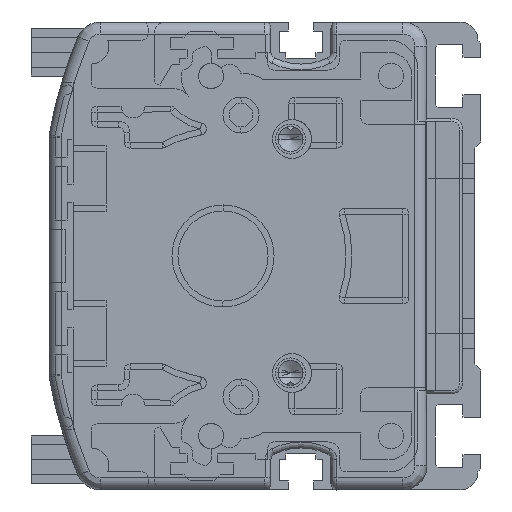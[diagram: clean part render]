
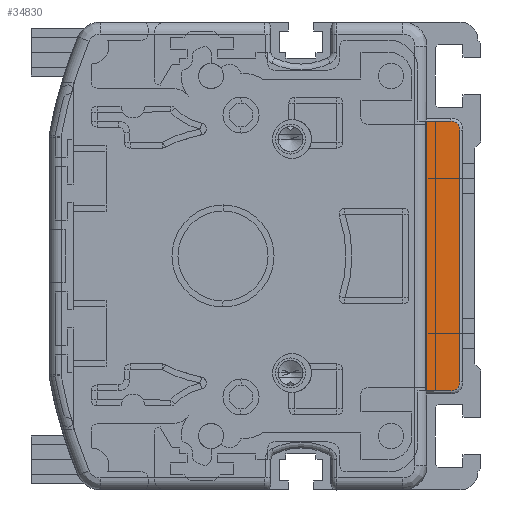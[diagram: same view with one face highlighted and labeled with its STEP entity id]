
A CAD part, left-side view. The second image highlights one B-rep face of the part: STEP entity #34830.
In plain terms, the highlighted planar face has unit normal (-1, 0, 0).
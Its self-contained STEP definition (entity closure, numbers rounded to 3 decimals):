
#29385=DIRECTION('',(0.,0.,-1.));
#29386=VECTOR('',#29385,45.);
#29387=CARTESIAN_POINT('',(-2.,10.268,22.5));
#29388=LINE('',#29387,#29386);
#29420=CARTESIAN_POINT('',(-2.,6.,21.));
#29421=DIRECTION('',(1.,0.,0.));
#29422=DIRECTION('',(0.,0.,1.));
#29423=AXIS2_PLACEMENT_3D('',#29420,#29421,#29422);
#29425=CARTESIAN_POINT('',(-2.,6.,-21.));
#29426=DIRECTION('',(1.,0.,0.));
#29427=DIRECTION('',(0.,-1.,0.));
#29428=AXIS2_PLACEMENT_3D('',#29425,#29426,#29427);
#29434=DIRECTION('',(0.,-1.,0.));
#29435=VECTOR('',#29434,4.268);
#29436=CARTESIAN_POINT('',(-2.,10.268,-22.5));
#29437=LINE('',#29436,#29435);
#29968=DIRECTION('',(0.,0.,1.));
#29969=VECTOR('',#29968,42.);
#29970=CARTESIAN_POINT('',(-2.,4.5,-21.));
#29971=LINE('',#29970,#29969);
#29991=DIRECTION('',(0.,1.,0.));
#29992=VECTOR('',#29991,4.268);
#29993=CARTESIAN_POINT('',(-2.,6.,22.5));
#29994=LINE('',#29993,#29992);
#33277=CARTESIAN_POINT('',(-2.,10.268,22.5));
#33278=CARTESIAN_POINT('',(-2.,10.268,-22.5));
#33279=VERTEX_POINT('',#33277);
#33280=VERTEX_POINT('',#33278);
#33290=CARTESIAN_POINT('',(-2.,6.,-22.5));
#33291=VERTEX_POINT('',#33290);
#33292=CARTESIAN_POINT('',(-2.,4.5,-21.));
#33293=VERTEX_POINT('',#33292);
#33294=CARTESIAN_POINT('',(-2.,4.5,21.));
#33295=VERTEX_POINT('',#33294);
#33296=CARTESIAN_POINT('',(-2.,6.,
22.5));
#33297=VERTEX_POINT('',#33296);
#34812=CARTESIAN_POINT('',(-2.,7.384,0.));
#34813=DIRECTION('',(1.,0.,0.));
#34814=DIRECTION('',(0.,0.,-1.));
#34815=AXIS2_PLACEMENT_3D('',#34812,#34813,#34814);
#34816=PLANE('',#34815);
#34818=ORIENTED_EDGE('',*,*,#34817,.F.);
#34819=ORIENTED_EDGE('',*,*,#34791,.F.);
#34821=ORIENTED_EDGE('',*,*,#34820,.F.);
#34823=ORIENTED_EDGE('',*,*,#34822,.T.);
#34825=ORIENTED_EDGE('',*,*,#34824,.F.);
#34827=ORIENTED_EDGE('',*,*,#34826,.T.);
#34828=EDGE_LOOP('',(#34818,#34819,#34821,#34823,#34825,#34827));
#34829=FACE_OUTER_BOUND('',#34828,.F.);
#34830=ADVANCED_FACE('',(#34829),#34816,.F.);
#29424=CIRCLE('',#29423,1.5);
#29429=CIRCLE('',#29428,1.5);
#34791=EDGE_CURVE('',#33279,#33280,#29388,.T.);
#34817=EDGE_CURVE('',#33280,#33291,#29437,.T.);
#34820=EDGE_CURVE('',#33297,#33279,#29994,.T.);
#34822=EDGE_CURVE('',#33297,#33295,#29424,.T.);
#34824=EDGE_CURVE('',#33293,#33295,#29971,.T.);
#34826=EDGE_CURVE('',#33293,#33291,#29429,.T.);
